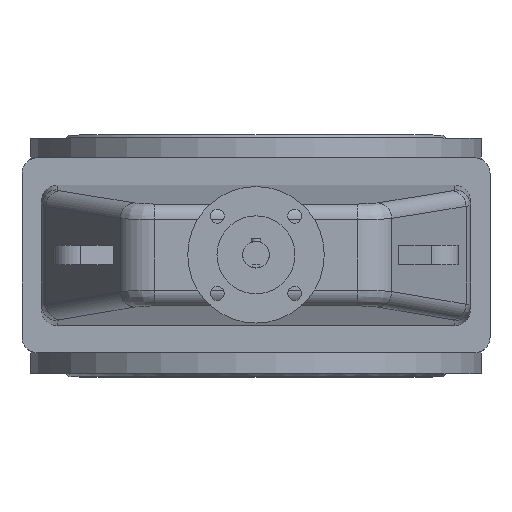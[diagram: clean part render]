
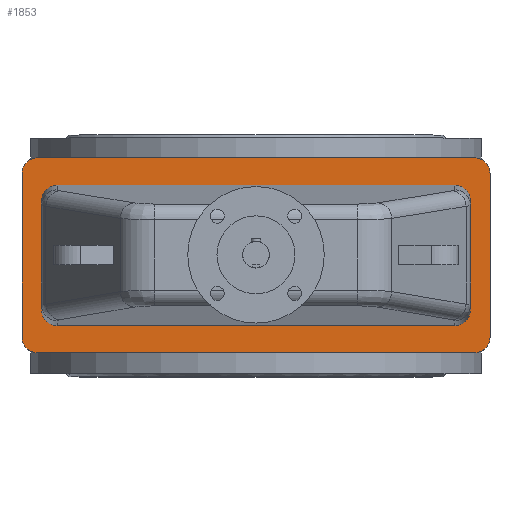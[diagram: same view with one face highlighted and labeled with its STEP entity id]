
A CAD part, top view. The second image highlights one B-rep face of the part: STEP entity #1853.
In plain terms, the highlighted planar face has unit normal (0, 0, 1).
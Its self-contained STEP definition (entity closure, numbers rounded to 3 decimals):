
#1853=ADVANCED_FACE('',(#5628,#5630),#5632,.T.);
#5628=FACE_BOUND('',#5629,.T.);
#5629=EDGE_LOOP('',(#7839,#7840,#7841,#7842,#7843,#7844,#7845,#7846));
#5630=FACE_BOUND('',#5631,.T.);
#5631=EDGE_LOOP('',(#7847,#7848,#7849,#7850,#7851,#7852,#7853,#7854));
#5632=PLANE('',#5633);
#5633=AXIS2_PLACEMENT_3D('',#5634,#5635,#5636);
#5634=CARTESIAN_POINT('',(0.,0.,466.));
#5635=DIRECTION('',(0.,-0.,1.));
#5636=DIRECTION('',(0.,1.,0.));
#7839=ORIENTED_EDGE('',*,*,#8687,.F.);
#7840=ORIENTED_EDGE('',*,*,#8700,.T.);
#7841=ORIENTED_EDGE('',*,*,#8699,.F.);
#7842=ORIENTED_EDGE('',*,*,#8697,.T.);
#7843=ORIENTED_EDGE('',*,*,#8695,.F.);
#7844=ORIENTED_EDGE('',*,*,#8693,.T.);
#7845=ORIENTED_EDGE('',*,*,#8691,.F.);
#7846=ORIENTED_EDGE('',*,*,#8688,.T.);
#7847=ORIENTED_EDGE('',*,*,#8701,.F.);
#7848=ORIENTED_EDGE('',*,*,#8702,.F.);
#7849=ORIENTED_EDGE('',*,*,#8703,.F.);
#7850=ORIENTED_EDGE('',*,*,#8704,.F.);
#7851=ORIENTED_EDGE('',*,*,#8705,.F.);
#7852=ORIENTED_EDGE('',*,*,#8706,.F.);
#7853=ORIENTED_EDGE('',*,*,#8707,.F.);
#7854=ORIENTED_EDGE('',*,*,#8708,.F.);
#8687=EDGE_CURVE('',#9787,#9785,#9789,.F.);
#8688=EDGE_CURVE('',#9790,#9785,#9791,.T.);
#8691=EDGE_CURVE('',#9790,#9793,#9795,.F.);
#8693=EDGE_CURVE('',#9796,#9793,#9798,.T.);
#8695=EDGE_CURVE('',#9796,#9799,#9801,.F.);
#8697=EDGE_CURVE('',#9802,#9799,#9804,.T.);
#8699=EDGE_CURVE('',#9802,#9805,#9807,.F.);
#8700=EDGE_CURVE('',#9787,#9805,#9808,.T.);
#8701=EDGE_CURVE('',#9809,#9810,#9811,.F.);
#8702=EDGE_CURVE('',#9812,#9809,#9813,.T.);
#8703=EDGE_CURVE('',#9814,#9812,#9815,.T.);
#8704=EDGE_CURVE('',#9816,#9814,#9817,.T.);
#8705=EDGE_CURVE('',#9818,#9816,#9819,.F.);
#8706=EDGE_CURVE('',#9820,#9818,#9821,.T.);
#8707=EDGE_CURVE('',#9822,#9820,#9823,.T.);
#8708=EDGE_CURVE('',#9810,#9822,#9824,.T.);
#9785=VERTEX_POINT('',#14433);
#9787=VERTEX_POINT('',#14437);
#9789=CIRCLE('',#14441,20.);
#9790=VERTEX_POINT('',#14445);
#9791=LINE('',#14446,#14447);
#9793=VERTEX_POINT('',#14452);
#9795=CIRCLE('',#14456,20.);
#9796=VERTEX_POINT('',#14460);
#9798=LINE('',#14464,#14465);
#9799=VERTEX_POINT('',#14467);
#9801=CIRCLE('',#14471,20.);
#9802=VERTEX_POINT('',#14475);
#9804=LINE('',#14479,#14480);
#9805=VERTEX_POINT('',#14482);
#9807=CIRCLE('',#14486,20.);
#9808=LINE('',#14490,#14491);
#9809=VERTEX_POINT('',#14493);
#9810=VERTEX_POINT('',#14494);
#9811=(BOUNDED_CURVE()B_SPLINE_CURVE(3,
(#14495,#14496,#14497,#14498),
.UNSPECIFIED.,.F.,.F.)B_SPLINE_CURVE_WITH_KNOTS((4,4),
(0.,1.),
.UNSPECIFIED.)CURVE()GEOMETRIC_REPRESENTATION_ITEM()RATIONAL_B_SPLINE_CURVE((1.,
0.805,0.805,1.))REPRESENTATION_ITEM(''));
#9812=VERTEX_POINT('',#14499);
#9813=LINE('',#14500,#14501);
#9814=VERTEX_POINT('',#14503);
#9815=(BOUNDED_CURVE()B_SPLINE_CURVE(3,
(#14504,#14505,#14506,#14507),
.UNSPECIFIED.,.F.,.F.)B_SPLINE_CURVE_WITH_KNOTS((4,4),
(0.,1.),
.UNSPECIFIED.)CURVE()GEOMETRIC_REPRESENTATION_ITEM()RATIONAL_B_SPLINE_CURVE((1.,
0.805,0.805,1.))REPRESENTATION_ITEM(''));
#9816=VERTEX_POINT('',#14508);
#9817=LINE('',#14509,#14510);
#9818=VERTEX_POINT('',#14512);
#9819=(BOUNDED_CURVE()B_SPLINE_CURVE(3,
(#14513,#14514,#14515,#14516),
.UNSPECIFIED.,.F.,.F.)B_SPLINE_CURVE_WITH_KNOTS((4,4),
(0.,1.),
.UNSPECIFIED.)CURVE()GEOMETRIC_REPRESENTATION_ITEM()RATIONAL_B_SPLINE_CURVE((1.,
0.805,0.805,1.))REPRESENTATION_ITEM(''));
#9820=VERTEX_POINT('',#14517);
#9821=LINE('',#14518,#14519);
#9822=VERTEX_POINT('',#14521);
#9823=(BOUNDED_CURVE()B_SPLINE_CURVE(3,
(#14522,#14523,#14524,#14525),
.UNSPECIFIED.,.F.,.F.)B_SPLINE_CURVE_WITH_KNOTS((4,4),
(0.,1.),
.UNSPECIFIED.)CURVE()GEOMETRIC_REPRESENTATION_ITEM()RATIONAL_B_SPLINE_CURVE((1.,
0.805,0.805,1.))REPRESENTATION_ITEM(''));
#9824=LINE('',#14526,#14527);
#14433=CARTESIAN_POINT('',(-300.,-105.,466.));
#14437=CARTESIAN_POINT('',(-280.,-125.,466.));
#14441=AXIS2_PLACEMENT_3D('',#14442,#14443,#14444);
#14442=CARTESIAN_POINT('',(-280.,-105.,466.));
#14443=DIRECTION('',(0.,-0.,1.));
#14444=DIRECTION('',(-1.,0.,0.));
#14445=CARTESIAN_POINT('',(-300.,105.,466.));
#14446=CARTESIAN_POINT('',(-300.,105.,466.));
#14447=VECTOR('',#14448,1.);
#14448=DIRECTION('',(0.,-1.,0.));
#14452=CARTESIAN_POINT('',(-280.,125.,466.));
#14456=AXIS2_PLACEMENT_3D('',#14457,#14458,#14459);
#14457=CARTESIAN_POINT('',(-280.,105.,466.));
#14458=DIRECTION('',(0.,-0.,1.));
#14459=DIRECTION('',(0.,1.,0.));
#14460=CARTESIAN_POINT('',(280.,125.,466.));
#14464=CARTESIAN_POINT('',(280.,125.,466.));
#14465=VECTOR('',#14466,1.);
#14466=DIRECTION('',(-1.,0.,0.));
#14467=CARTESIAN_POINT('',(300.,105.,466.));
#14471=AXIS2_PLACEMENT_3D('',#14472,#14473,#14474);
#14472=CARTESIAN_POINT('',(280.,105.,466.));
#14473=DIRECTION('',(0.,-0.,1.));
#14474=DIRECTION('',(1.,0.,0.));
#14475=CARTESIAN_POINT('',(300.,-105.,466.));
#14479=CARTESIAN_POINT('',(300.,-105.,466.));
#14480=VECTOR('',#14481,1.);
#14481=DIRECTION('',(0.,1.,0.));
#14482=CARTESIAN_POINT('',(280.,-125.,466.));
#14486=AXIS2_PLACEMENT_3D('',#14487,#14488,#14489);
#14487=CARTESIAN_POINT('',(280.,-105.,466.));
#14488=DIRECTION('',(0.,-0.,1.));
#14489=DIRECTION('',(0.,-1.,0.));
#14490=CARTESIAN_POINT('',(-280.,-125.,466.));
#14491=VECTOR('',#14492,1.);
#14492=DIRECTION('',(1.,0.,0.));
#14493=CARTESIAN_POINT('',(255.,-90.,466.));
#14494=CARTESIAN_POINT('',(275.,-69.924,466.));
#14495=CARTESIAN_POINT('',(275.,-69.924,466.));
#14496=CARTESIAN_POINT('',(275.,-81.684,466.));
#14497=CARTESIAN_POINT('',(266.716,-90.,466.));
#14498=CARTESIAN_POINT('',(255.,-90.,466.));
#14499=CARTESIAN_POINT('',(-255.,-90.,466.));
#14500=CARTESIAN_POINT('',(-255.,-90.,466.));
#14501=VECTOR('',#14502,1.);
#14502=DIRECTION('',(1.,0.,0.));
#14503=CARTESIAN_POINT('',(-275.,-69.924,466.));
#14504=CARTESIAN_POINT('',(-275.,-69.924,466.));
#14505=CARTESIAN_POINT('',(-275.,-81.684,466.));
#14506=CARTESIAN_POINT('',(-266.716,-90.,466.));
#14507=CARTESIAN_POINT('',(-255.,-90.,466.));
#14508=CARTESIAN_POINT('',(-275.,69.924,466.));
#14509=CARTESIAN_POINT('',(-275.,69.924,466.));
#14510=VECTOR('',#14511,1.);
#14511=DIRECTION('',(0.,-1.,0.));
#14512=CARTESIAN_POINT('',(-255.,90.,466.));
#14513=CARTESIAN_POINT('',(-275.,69.924,466.));
#14514=CARTESIAN_POINT('',(-275.,81.684,466.));
#14515=CARTESIAN_POINT('',(-266.716,90.,466.));
#14516=CARTESIAN_POINT('',(-255.,90.,466.));
#14517=CARTESIAN_POINT('',(255.,90.,466.));
#14518=CARTESIAN_POINT('',(255.,90.,466.));
#14519=VECTOR('',#14520,1.);
#14520=DIRECTION('',(-1.,0.,0.));
#14521=CARTESIAN_POINT('',(275.,69.924,466.));
#14522=CARTESIAN_POINT('',(275.,69.924,466.));
#14523=CARTESIAN_POINT('',(275.,81.684,466.));
#14524=CARTESIAN_POINT('',(266.716,90.,466.));
#14525=CARTESIAN_POINT('',(255.,90.,466.));
#14526=CARTESIAN_POINT('',(275.,-69.924,466.));
#14527=VECTOR('',#14528,1.);
#14528=DIRECTION('',(0.,1.,0.));
